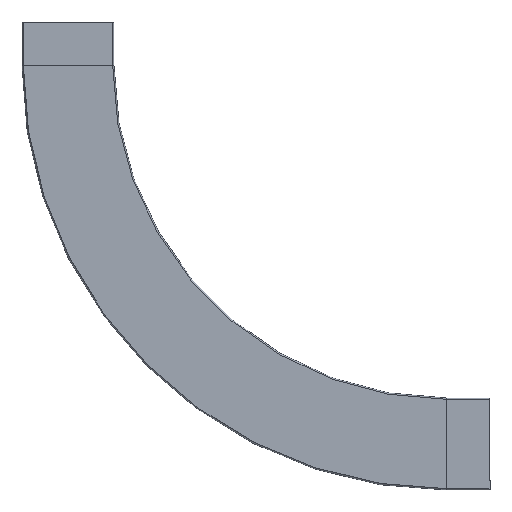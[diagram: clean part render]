
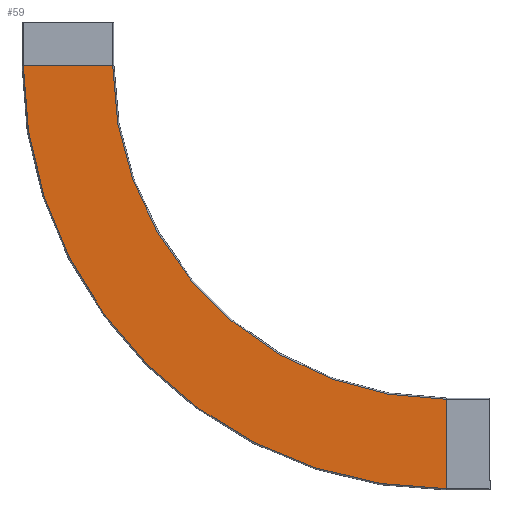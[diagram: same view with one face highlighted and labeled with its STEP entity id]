
A CAD part, front view. The second image highlights one B-rep face of the part: STEP entity #59.
In plain terms, the highlighted planar face has unit normal (0, -1, 0).
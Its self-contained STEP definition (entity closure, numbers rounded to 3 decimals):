
#59 = ADVANCED_FACE ( 'NONE', ( #2623 ), #3793, .F. ) ;
#407 = VERTEX_POINT ( 'NONE', #1960 ) ;
#1180 = VECTOR ( 'NONE', #4965, 1000. ) ;
#1213 = LINE ( 'NONE', #4447, #1180 ) ;
#1299 = CARTESIAN_POINT ( 'NONE',  ( 350., -56.5, -431.275 ) ) ;
#1531 = EDGE_CURVE ( 'NONE', #3706, #407, #1213, .T. ) ;
#1960 = CARTESIAN_POINT ( 'NONE',  ( 350., -56.5, -348.725 ) ) ;
#2380 = AXIS2_PLACEMENT_3D ( 'NONE', #3772, #3801, #3820 ) ;
#2611 = CIRCLE ( 'NONE', #4199, 308.725 ) ;
#2623 = FACE_OUTER_BOUND ( 'NONE', #5135, .T. ) ;
#2698 = CARTESIAN_POINT ( 'NONE',  ( 41.275, -56.5, -40. ) ) ;
#2906 = VERTEX_POINT ( 'NONE', #3666 ) ;
#2907 = VERTEX_POINT ( 'NONE', #2698 ) ;
#2943 = EDGE_CURVE ( 'NONE', #2907, #2906, #5429, .T. ) ;
#3057 = DIRECTION ( 'NONE',  ( 0., 0., 1. ) ) ;
#3065 = DIRECTION ( 'NONE',  ( 0., 1., 0. ) ) ;
#3071 = CARTESIAN_POINT ( 'NONE',  ( 350., -56.5, -40. ) ) ;
#3419 = VECTOR ( 'NONE', #3890, 1000. ) ;
#3661 = AXIS2_PLACEMENT_3D ( 'NONE', #3071, #3065, #3057 ) ;
#3666 = CARTESIAN_POINT ( 'NONE',  ( -41.275, -56.5, -40. ) ) ;
#3706 = VERTEX_POINT ( 'NONE', #1299 ) ;
#3772 = CARTESIAN_POINT ( 'NONE',  ( 350., -56.5, -348.725 ) ) ;
#3793 = PLANE ( 'NONE',  #2380 ) ;
#3801 = DIRECTION ( 'NONE',  ( 0., 1., 0. ) ) ;
#3820 = DIRECTION ( 'NONE',  ( 0., 0., 1. ) ) ;
#3846 = CARTESIAN_POINT ( 'NONE',  ( 0., -56.5, -40. ) ) ;
#3890 = DIRECTION ( 'NONE',  ( -1., 0., 0. ) ) ;
#3920 = DIRECTION ( 'NONE',  ( 0., 0., 1. ) ) ;
#3937 = DIRECTION ( 'NONE',  ( 0., 1., 0. ) ) ;
#3947 = CARTESIAN_POINT ( 'NONE',  ( 350., -56.5, -40. ) ) ;
#4112 = CIRCLE ( 'NONE', #3661, 391.275 ) ;
#4199 = AXIS2_PLACEMENT_3D ( 'NONE', #3947, #3937, #3920 ) ;
#4352 = ORIENTED_EDGE ( 'NONE', *, *, #1531, .T. ) ;
#4359 = ORIENTED_EDGE ( 'NONE', *, *, #2943, .T. ) ;
#4387 = EDGE_CURVE ( 'NONE', #3706, #2906, #4112, .T. ) ;
#4447 = CARTESIAN_POINT ( 'NONE',  ( 350., -56.5, -348.725 ) ) ;
#4965 = DIRECTION ( 'NONE',  ( 0., 0., 1. ) ) ;
#5035 = EDGE_CURVE ( 'NONE', #407, #2907, #2611, .T. ) ;
#5101 = ORIENTED_EDGE ( 'NONE', *, *, #5035, .T. ) ;
#5135 = EDGE_LOOP ( 'NONE', ( #4359, #5420, #4352, #5101 ) ) ;
#5420 = ORIENTED_EDGE ( 'NONE', *, *, #4387, .F. ) ;
#5429 = LINE ( 'NONE', #3846, #3419 ) ;
